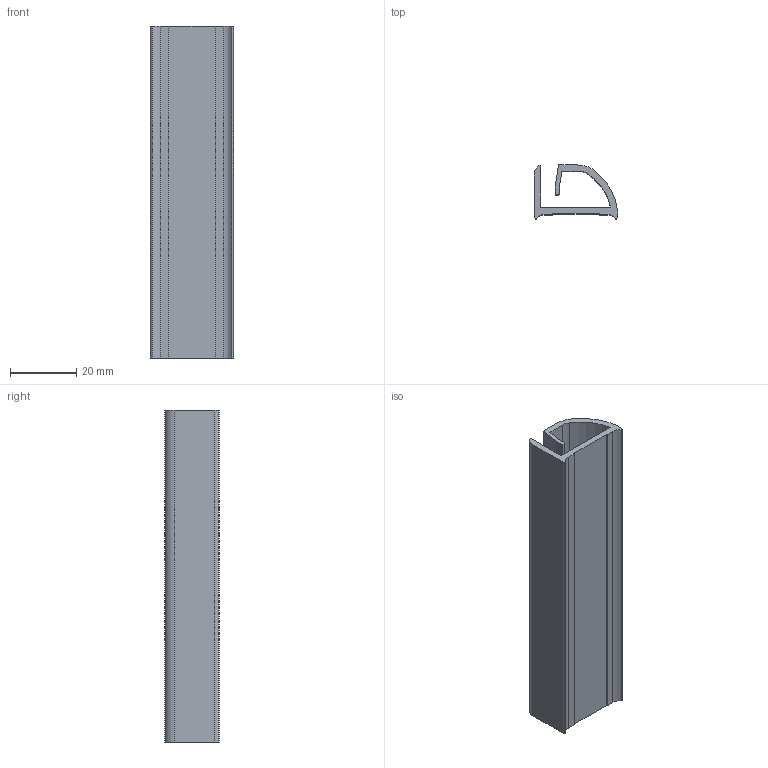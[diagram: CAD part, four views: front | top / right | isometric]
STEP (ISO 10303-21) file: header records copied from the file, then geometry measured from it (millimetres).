
FILE_DESCRIPTION (( 'STEP AP203' ), '1' );
FILE_NAME ('013.025.015.STEP', '2020-07-22T09:09:03', ( '' ), ( '' ), 'SwSTEP 2.0', 'SolidWorks 2018', '' );
FILE_SCHEMA (( 'CONFIG_CONTROL_DESIGN' ));
Length unit declared in the file: millimetre
Products named in the file (1): 013.025.015
Bounding box: 25 x 16.3 x 100 mm (x, y, z)
Volume: 12783.7 mm3; surface area: 14480.9 mm2
Topology: 1 solids, 1 shells, 34 faces, 96 edges, 64 vertices
Faces by surface type: plane 18, cylinder 14, bspline 2
Entity records: 1197 total; most frequent: CARTESIAN_POINT 221, ORIENTED_EDGE 192, DIRECTION 186, EDGE_CURVE 96, LINE 64, VERTEX_POINT 64, VECTOR 64, AXIS2_PLACEMENT_3D 61
